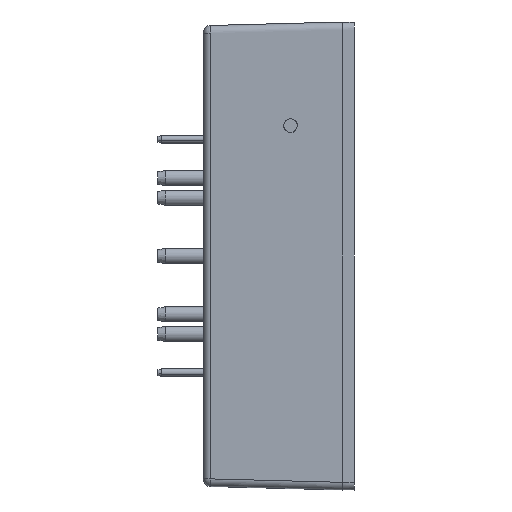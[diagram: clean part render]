
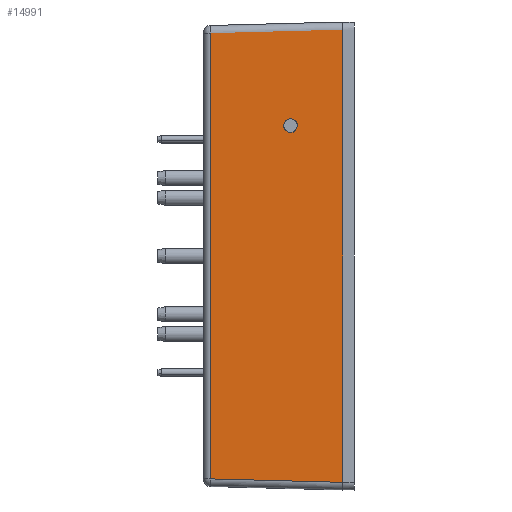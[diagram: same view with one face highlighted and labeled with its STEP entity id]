
A CAD part, left-side view. The second image highlights one B-rep face of the part: STEP entity #14991.
In plain terms, the highlighted planar face has unit normal (-1, 0.026, 0).
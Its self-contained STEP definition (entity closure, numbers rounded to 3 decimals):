
#724 = ORIENTED_EDGE ( 'NONE', *, *, #964, .T. ) ;
#756 = CARTESIAN_POINT ( 'NONE',  ( -58.222, 6.8, 16.1 ) ) ;
#964 = EDGE_CURVE ( 'NONE', #38380, #71924, #18629, .T. ) ;
#2016 = DIRECTION ( 'NONE',  ( 0., 0., -1. ) ) ;
#2420 = VERTEX_POINT ( 'NONE', #5662 ) ;
#2623 = EDGE_LOOP ( 'NONE', ( #724, #19845 ) ) ;
#3470 = CARTESIAN_POINT ( 'NONE',  ( -58.222, 6.8, 16.1 ) ) ;
#4528 = EDGE_CURVE ( 'NONE', #76452, #22154, #53036, .T. ) ;
#5196 = DIRECTION ( 'NONE',  ( 0.026, 0.999, -0.026 ) ) ;
#5662 = CARTESIAN_POINT ( 'NONE',  ( -57.949, 17.226, -29.049 ) ) ;
#8726 = CARTESIAN_POINT ( 'NONE',  ( -58.4, 0., -30.5 ) ) ;
#8860 = DIRECTION ( 'NONE',  ( 0.026, 1., 0. ) ) ;
#12628 = LINE ( 'NONE', #67178, #27290 ) ;
#13624 = EDGE_LOOP ( 'NONE', ( #24818, #61646, #57204, #38544, #31900 ) ) ;
#13643 = VECTOR ( 'NONE', #5196, 1000. ) ;
#14299 = CARTESIAN_POINT ( 'NONE',  ( -58.4, 0., 30.5 ) ) ;
#14991 = ADVANCED_FACE ( 'NONE', ( #21414, #27293 ), #62625, .T. ) ;
#17545 = CARTESIAN_POINT ( 'NONE',  ( -58.4, 0., 29.5 ) ) ;
#18629 =( BOUNDED_CURVE ( )  B_SPLINE_CURVE ( 3, ( #49843, #73846, #28618, #65131 ),
 .UNSPECIFIED., .F., .T. ) 
 B_SPLINE_CURVE_WITH_KNOTS ( ( 4, 4 ),
 ( 1.571, 4.712 ),
 .UNSPECIFIED. ) 
 CURVE ( )  GEOMETRIC_REPRESENTATION_ITEM ( )  RATIONAL_B_SPLINE_CURVE ( ( 1., 0.333, 0.333, 1. ) ) 
 REPRESENTATION_ITEM ( '' )  );
#19845 = ORIENTED_EDGE ( 'NONE', *, *, #51719, .T. ) ;
#21414 = FACE_BOUND ( 'NONE', #2623, .T. ) ;
#22154 = VERTEX_POINT ( 'NONE', #74546 ) ;
#22568 = DIRECTION ( 'NONE',  ( -0.026, -0.999, -0.026 ) ) ;
#24818 = ORIENTED_EDGE ( 'NONE', *, *, #30832, .F. ) ;
#25108 = VECTOR ( 'NONE', #22568, 1000. ) ;
#26285 = EDGE_CURVE ( 'NONE', #61344, #26322, #52219, .T. ) ;
#26322 = VERTEX_POINT ( 'NONE', #41377 ) ;
#27290 = VECTOR ( 'NONE', #2016, 1000. ) ;
#27293 = FACE_OUTER_BOUND ( 'NONE', #13624, .T. ) ;
#28618 = CARTESIAN_POINT ( 'NONE',  ( -58.175, 8.6, 17.9 ) ) ;
#30832 = EDGE_CURVE ( 'NONE', #76452, #26322, #54714, .T. ) ;
#31900 = ORIENTED_EDGE ( 'NONE', *, *, #26285, .T. ) ;
#34351 = CARTESIAN_POINT ( 'NONE',  ( -58.359, 1.569, -29.459 ) ) ;
#34944 = CARTESIAN_POINT ( 'NONE',  ( -58.401, -0.026, 29.501 ) ) ;
#36821 =( BOUNDED_CURVE ( )  B_SPLINE_CURVE ( 3, ( #45832, #63906, #70602, #3470 ),
 .UNSPECIFIED., .F., .T. ) 
 B_SPLINE_CURVE_WITH_KNOTS ( ( 4, 4 ),
 ( 4.712, 7.854 ),
 .UNSPECIFIED. ) 
 CURVE ( )  GEOMETRIC_REPRESENTATION_ITEM ( )  RATIONAL_B_SPLINE_CURVE ( ( 1., 0.333, 0.333, 1. ) ) 
 REPRESENTATION_ITEM ( '' )  );
#38380 = VERTEX_POINT ( 'NONE', #756 ) ;
#38544 = ORIENTED_EDGE ( 'NONE', *, *, #44556, .T. ) ;
#41377 = CARTESIAN_POINT ( 'NONE',  ( -58.4, 0., 29.5 ) ) ;
#44556 = EDGE_CURVE ( 'NONE', #2420, #61344, #58307, .T. ) ;
#45832 = CARTESIAN_POINT ( 'NONE',  ( -58.222, 6.8, 17.9 ) ) ;
#46618 = CARTESIAN_POINT ( 'NONE',  ( -58.4, 0., -29.5 ) ) ;
#49227 = VECTOR ( 'NONE', #56598, 1000. ) ;
#49843 = CARTESIAN_POINT ( 'NONE',  ( -58.222, 6.8, 16.1 ) ) ;
#50316 = AXIS2_PLACEMENT_3D ( 'NONE', #75588, #63400, #8860 ) ;
#51719 = EDGE_CURVE ( 'NONE', #71924, #38380, #36821, .T. ) ;
#52219 = LINE ( 'NONE', #8726, #49227 ) ;
#53036 = LINE ( 'NONE', #34944, #13643 ) ;
#54714 = LINE ( 'NONE', #14299, #75145 ) ;
#56598 = DIRECTION ( 'NONE',  ( 0., 0., 1. ) ) ;
#57204 = ORIENTED_EDGE ( 'NONE', *, *, #66435, .T. ) ;
#58307 = LINE ( 'NONE', #34351, #25108 ) ;
#61344 = VERTEX_POINT ( 'NONE', #46618 ) ;
#61646 = ORIENTED_EDGE ( 'NONE', *, *, #4528, .T. ) ;
#62201 = DIRECTION ( 'NONE',  ( 0., 0., -1. ) ) ;
#62625 = PLANE ( 'NONE',  #50316 ) ;
#63400 = DIRECTION ( 'NONE',  ( -1., 0.026, 0. ) ) ;
#63906 = CARTESIAN_POINT ( 'NONE',  ( -58.269, 5., 17.9 ) ) ;
#65131 = CARTESIAN_POINT ( 'NONE',  ( -58.222, 6.8, 17.9 ) ) ;
#66435 = EDGE_CURVE ( 'NONE', #22154, #2420, #12628, .T. ) ;
#67178 = CARTESIAN_POINT ( 'NONE',  ( -57.949, 17.226, -30.023 ) ) ;
#70602 = CARTESIAN_POINT ( 'NONE',  ( -58.269, 5., 16.1 ) ) ;
#71924 = VERTEX_POINT ( 'NONE', #74152 ) ;
#73846 = CARTESIAN_POINT ( 'NONE',  ( -58.175, 8.6, 16.1 ) ) ;
#74152 = CARTESIAN_POINT ( 'NONE',  ( -58.222, 6.8, 17.9 ) ) ;
#74546 = CARTESIAN_POINT ( 'NONE',  ( -57.949, 17.226, 29.049 ) ) ;
#75145 = VECTOR ( 'NONE', #62201, 1000. ) ;
#75588 = CARTESIAN_POINT ( 'NONE',  ( -58.4, 0., 30.5 ) ) ;
#76452 = VERTEX_POINT ( 'NONE', #17545 ) ;
